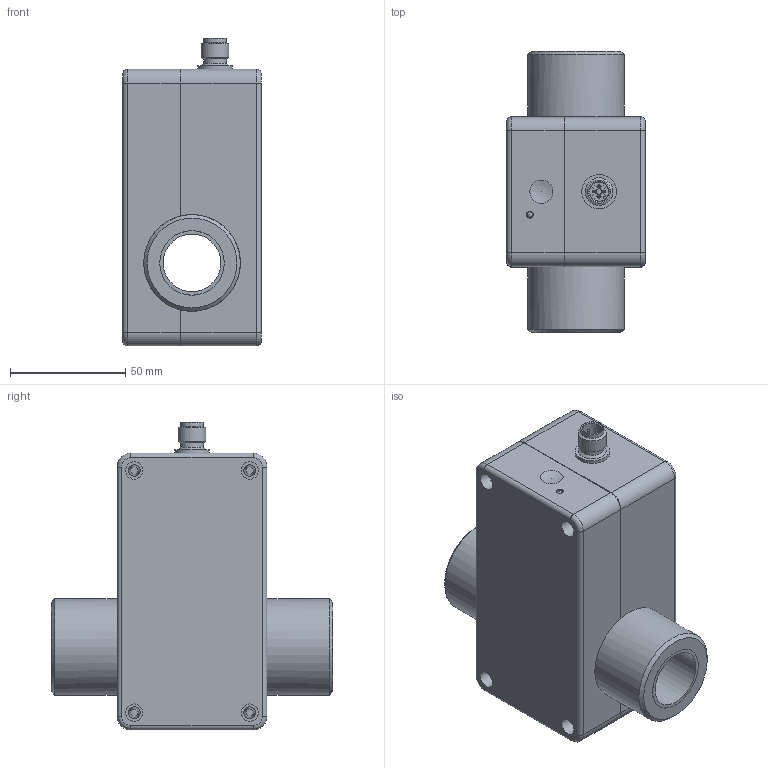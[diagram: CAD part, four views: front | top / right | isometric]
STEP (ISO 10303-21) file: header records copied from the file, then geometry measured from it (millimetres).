
FILE_DESCRIPTION(/* description */ ('SIKA MID VMZ 25'),/* implementation_level */ '2;1');
FILE_NAME(/* name */ 'F:\Tausch\kuelper\3D-Modelle\VMZ256S2PEGY4000.stp',/* time_stamp */ '2021-01-27T11:56:50+01:00',/* author */ ('kuelper'),/* organization */ (''),/* preprocessor_version */ 'ST-DEVELOPER v18',/* originating_system */ 'Autodesk Inventor 2020',/* authorisation */ '');
FILE_SCHEMA (('AUTOMOTIVE_DESIGN { 1 0 10303 214 3 1 1 }'));
Length unit declared in the file: millimetre
Products named in the file (1): MID-0781
Bounding box: 60 x 122 x 133.5 mm (x, y, z)
Volume: 480072.7 mm3; surface area: 66690.6 mm2
Topology: 1 solids, 1 shells, 144 faces, 368 edges, 241 vertices
Faces by surface type: plane 68, cylinder 52, cone 10, torus 8, sphere 6
Full cylindrical faces by diameter (mm): 1 x4, 2.5 x1, 3 x1, 5 x4, 7.5 x4, 10 x2, 12 x1, 15 x1, 25 x1, 27.98 x2, 28 x2, 41.91 x2
Entity records: 4572 total; most frequent: DIRECTION 833, CARTESIAN_POINT 748, ORIENTED_EDGE 724, EDGE_CURVE 362, AXIS2_PLACEMENT_3D 326, VERTEX_POINT 241, LINE 181, VECTOR 181
